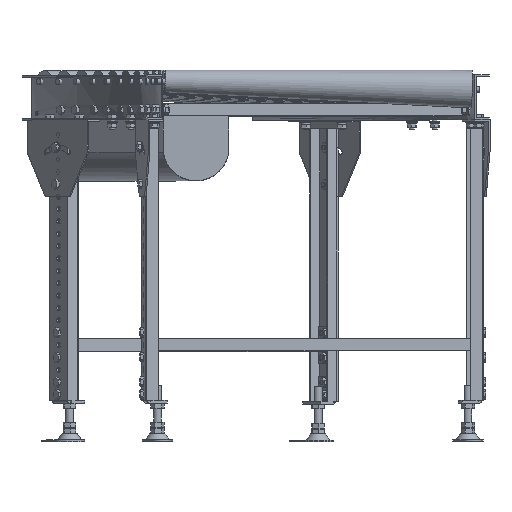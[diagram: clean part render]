
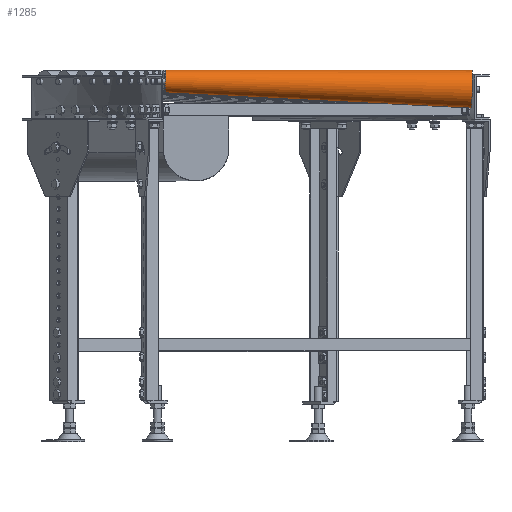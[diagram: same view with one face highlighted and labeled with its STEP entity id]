
A CAD part, top view. The second image highlights one B-rep face of the part: STEP entity #1285.
In plain terms, the highlighted free-form (B-spline) face has degree [2, 1] with [7, 2] control points.
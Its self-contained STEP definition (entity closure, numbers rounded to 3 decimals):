
#1285=ADVANCED_FACE('',(#3712),#3711,.T.);
#3711=( BOUNDED_SURFACE() B_SPLINE_SURFACE( 2,1,((#27615,#27616),(#27617,#27618),(#27619,#27620),(#27621,#27622),(#27623,#27624),(#27625,#27626),(#27627,#27628)), .UNSPECIFIED.,.T.,.F.,.F.) B_SPLINE_SURFACE_WITH_KNOTS((3,2,2,3),(2,2),(0.,0.333,0.667,1.),(0.,1.), .UNSPECIFIED. ) GEOMETRIC_REPRESENTATION_ITEM() RATIONAL_B_SPLINE_SURFACE(((1.,1.),(0.5,0.5),(1.,1.),(0.5,0.5),(1.,1.),(0.5,0.5),(1.,1.))) REPRESENTATION_ITEM('') SURFACE() );
#3712=FACE_OUTER_BOUND('',#27629,.T.);
#27615=CARTESIAN_POINT('',(905.446,-8.951,-11.67));
#27616=CARTESIAN_POINT('',(1525.556,-15.062,-19.713));
#27617=CARTESIAN_POINT('',(905.446,-40.188,12.064));
#27618=CARTESIAN_POINT('',(1525.556,-67.606,20.212));
#27619=CARTESIAN_POINT('',(904.046,-45.107,-26.832));
#27620=CARTESIAN_POINT('',(1523.202,-75.88,-45.216));
#27621=CARTESIAN_POINT('',(902.647,-50.026,-65.728));
#27622=CARTESIAN_POINT('',(1520.848,-84.155,-110.644));
#27623=CARTESIAN_POINT('',(904.046,-13.87,-50.567));
#27624=CARTESIAN_POINT('',(1523.202,-23.336,-85.141));
#27625=CARTESIAN_POINT('',(905.446,22.285,-35.405));
#27626=CARTESIAN_POINT('',(1525.556,37.482,-59.637));
#27627=CARTESIAN_POINT('',(905.446,-8.951,-11.67));
#27628=CARTESIAN_POINT('',(1525.556,-15.062,-19.713));
#27629=EDGE_LOOP('',(#39946,#39947,#39948,#39949,#39950));
#39946=ORIENTED_EDGE('',*,*,#51208,.T.);
#39947=ORIENTED_EDGE('',*,*,#51218,.T.);
#39948=ORIENTED_EDGE('',*,*,#51211,.T.);
#39949=ORIENTED_EDGE('',*,*,#51218,.F.);
#39950=ORIENTED_EDGE('',*,*,#51207,.T.);
#51207=EDGE_CURVE('',#56847,#56848,#56849,.T.);
#51208=EDGE_CURVE('',#56848,#56847,#56855,.T.);
#51211=EDGE_CURVE('',#56875,#56875,#56876,.T.);
#51218=EDGE_CURVE('',#56847,#56875,#56922,.T.);
#56847=VERTEX_POINT('',#94315);
#56848=VERTEX_POINT('',#94316);
#56849=CIRCLE('',#94320,22.65);
#56855=CIRCLE('',#94324,22.65);
#56875=VERTEX_POINT('',#94335);
#56876=CIRCLE('',#94339,38.1);
#56922=(BOUNDED_CURVE() B_SPLINE_CURVE(1,(#94364,#94365),.UNSPECIFIED.,.F.,.F.) B_SPLINE_CURVE_WITH_KNOTS((2,2),(0.,1.),.UNSPECIFIED.) CURVE() GEOMETRIC_REPRESENTATION_ITEM() RATIONAL_B_SPLINE_CURVE((1.,1.)) REPRESENTATION_ITEM('') );
#94315=CARTESIAN_POINT('',(905.446,-8.951,-11.67));
#94316=CARTESIAN_POINT('',(903.58,-36.334,-47.709));
#94317=CARTESIAN_POINT('',(904.513,-22.643,-29.69));
#94318=DIRECTION('',(0.999,-0.025,-0.033));
#94319=DIRECTION('',(-0.041,-0.604,-0.796));
#94320=AXIS2_PLACEMENT_3D('',#94317,#94318,#94319);
#94321=CARTESIAN_POINT('',(904.513,-22.643,-29.69));
#94322=DIRECTION('',(0.999,-0.025,-0.033));
#94323=DIRECTION('',(-0.041,-0.604,-0.796));
#94324=AXIS2_PLACEMENT_3D('',#94321,#94322,#94323);
#94335=CARTESIAN_POINT('',(1525.556,-15.062,-19.713));
#94336=CARTESIAN_POINT('',(1523.987,-38.093,-50.023));
#94337=DIRECTION('',(-0.999,0.025,0.033));
#94338=DIRECTION('',(0.041,0.604,0.796));
#94339=AXIS2_PLACEMENT_3D('',#94336,#94337,#94338);
#94364=CARTESIAN_POINT('',(905.446,-8.951,-11.67));
#94365=CARTESIAN_POINT('',(1525.556,-15.062,-19.713));
